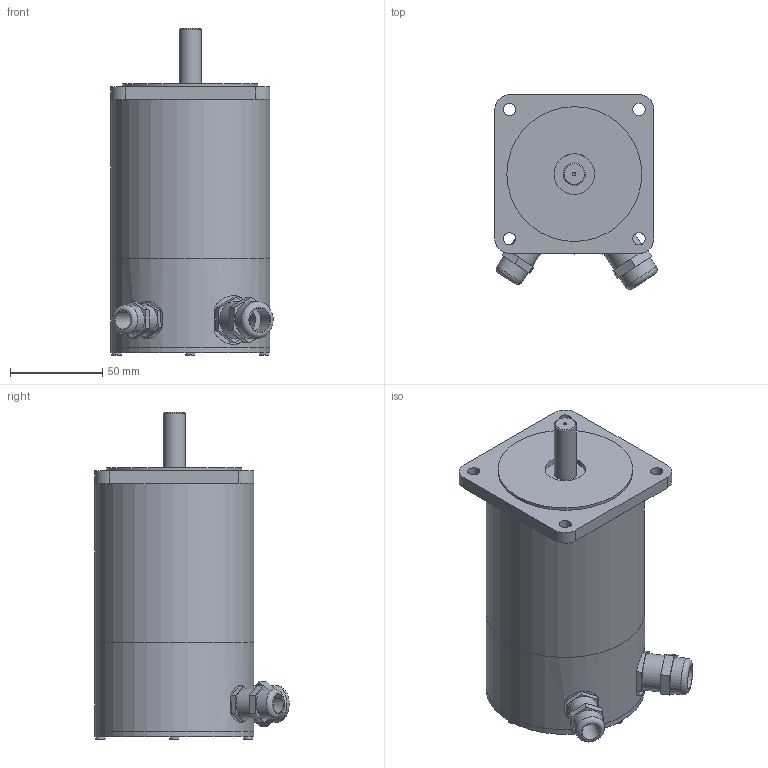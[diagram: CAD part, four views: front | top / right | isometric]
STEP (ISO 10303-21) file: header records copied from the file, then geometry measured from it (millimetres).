
FILE_DESCRIPTION((''),'2;1');
FILE_NAME('C:\Users\Reinhard\Documents\Inventor\Testschrittmotor\SM88\SM88.2-H200-KV.stp','2012-11-12T20:26:51',('Reinhard'),(''),'Autodesk Inventor 2012','Autodesk Inventor 2012','');
FILE_SCHEMA(('CONFIG_CONTROL_DESIGN'));
Length unit declared in the file: millimetre
Products named in the file (1): SM88
Bounding box: 87.8 x 105.15 x 177 mm (x, y, z)
Volume: 178939.5 mm3; surface area: 106699.1 mm2
Topology: 2 solids, 2 shells, 125 faces, 281 edges, 185 vertices
Faces by surface type: plane 79, cylinder 42, torus 2, cone 2
Full cylindrical faces by diameter (mm): 2 x1, 5 x4, 6.6 x4, 10 x1, 12 x3, 13 x2, 15 x1, 16 x2, 18.376 x1, 20 x3, 22 x1, 73 x1, 78 x2, 82 x1, 86 x3
Entity records: 3404 total; most frequent: CARTESIAN_POINT 674, DIRECTION 568, ORIENTED_EDGE 476, EDGE_CURVE 238, AXIS2_PLACEMENT_3D 218, EDGE_LOOP 198, VERTEX_POINT 176, VECTOR 132
